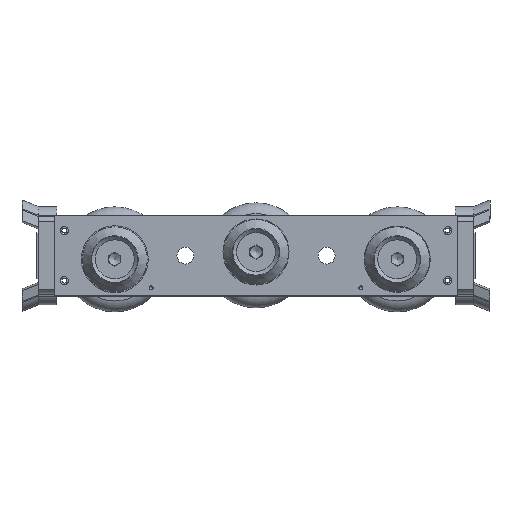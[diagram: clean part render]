
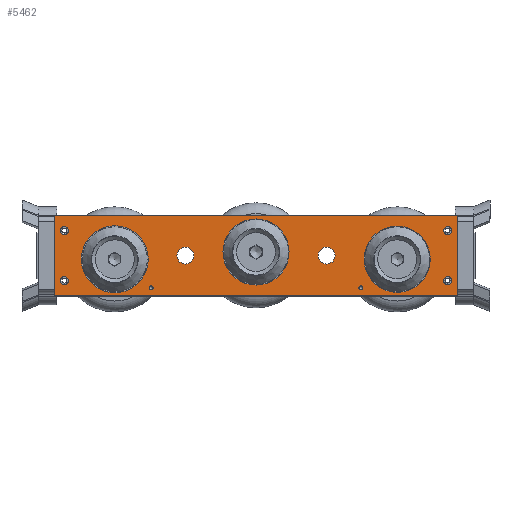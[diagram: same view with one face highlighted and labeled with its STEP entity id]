
A CAD part, top view. The second image highlights one B-rep face of the part: STEP entity #5462.
In plain terms, the highlighted planar face has unit normal (0, 0, 1).
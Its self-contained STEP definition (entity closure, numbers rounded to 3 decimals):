
#58 = CIRCLE ( 'NONE', #981, 1. ) ;
#91 = CIRCLE ( 'NONE', #696, 1. ) ;
#97 = CIRCLE ( 'NONE', #3972, 8.3 ) ;
#251 = DIRECTION ( 'NONE',  ( -1., 0., 0. ) ) ;
#273 = CARTESIAN_POINT ( 'NONE',  ( -46.5, -6.2, 3. ) ) ;
#287 = EDGE_CURVE ( 'NONE', #6233, #6233, #3957, .T. ) ;
#354 = VERTEX_POINT ( 'NONE', #3831 ) ;
#376 = EDGE_CURVE ( 'NONE', #5525, #4597, #4085, .T. ) ;
#404 = CARTESIAN_POINT ( 'NONE',  ( -47.5, -6.2, 3. ) ) ;
#449 = EDGE_CURVE ( 'NONE', #5886, #4985, #5121, .T. ) ;
#565 = AXIS2_PLACEMENT_3D ( 'NONE', #3541, #3728, #1770 ) ;
#599 = EDGE_LOOP ( 'NONE', ( #2464 ) ) ;
#696 = AXIS2_PLACEMENT_3D ( 'NONE', #2272, #830, #3811 ) ;
#728 = CARTESIAN_POINT ( 'NONE',  ( -46.5, 6.2, 3. ) ) ;
#766 = DIRECTION ( 'NONE',  ( 1., 0., 0. ) ) ;
#802 = FACE_BOUND ( 'NONE', #1816, .T. ) ;
#830 = DIRECTION ( 'NONE',  ( 0., 0., -1. ) ) ;
#855 = LINE ( 'NONE', #2807, #6227 ) ;
#935 = DIRECTION ( 'NONE',  ( 1., 0., 0. ) ) ;
#940 = EDGE_CURVE ( 'NONE', #354, #354, #994, .T. ) ;
#969 = CARTESIAN_POINT ( 'NONE',  ( 47.5, 6.2, 3. ) ) ;
#981 = AXIS2_PLACEMENT_3D ( 'NONE', #969, #2928, #4874 ) ;
#994 = CIRCLE ( 'NONE', #1512, 8.2 ) ;
#1012 = AXIS2_PLACEMENT_3D ( 'NONE', #3749, #3238, #3150 ) ;
#1032 = ORIENTED_EDGE ( 'NONE', *, *, #6018, .F. ) ;
#1058 = DIRECTION ( 'NONE',  ( 0., 0., 1. ) ) ;
#1087 = AXIS2_PLACEMENT_3D ( 'NONE', #3424, #3992, #5352 ) ;
#1130 = CARTESIAN_POINT ( 'NONE',  ( 50., -10., 3. ) ) ;
#1182 = FACE_BOUND ( 'NONE', #1412, .T. ) ;
#1215 = AXIS2_PLACEMENT_3D ( 'NONE', #404, #1338, #6298 ) ;
#1263 = DIRECTION ( 'NONE',  ( 0., 0., 1. ) ) ;
#1268 = CARTESIAN_POINT ( 'NONE',  ( 19.6, 0., 3. ) ) ;
#1271 = ORIENTED_EDGE ( 'NONE', *, *, #1650, .F. ) ;
#1274 = PLANE ( 'NONE',  #1012 ) ;
#1338 = DIRECTION ( 'NONE',  ( 0., 0., 1. ) ) ;
#1412 = EDGE_LOOP ( 'NONE', ( #3812 ) ) ;
#1453 = EDGE_CURVE ( 'NONE', #5318, #5318, #58, .T. ) ;
#1458 = LINE ( 'NONE', #2967, #1509 ) ;
#1509 = VECTOR ( 'NONE', #4377, 1000. ) ;
#1512 = AXIS2_PLACEMENT_3D ( 'NONE', #2002, #1058, #1578 ) ;
#1578 = DIRECTION ( 'NONE',  ( 1., 0., 0. ) ) ;
#1627 = CIRCLE ( 'NONE', #3268, 2.1 ) ;
#1650 = EDGE_CURVE ( 'NONE', #4842, #4842, #3539, .T. ) ;
#1675 = CARTESIAN_POINT ( 'NONE',  ( 50., -10., 3. ) ) ;
#1750 = VERTEX_POINT ( 'NONE', #1268 ) ;
#1770 = DIRECTION ( 'NONE',  ( 1., 0., 0. ) ) ;
#1787 = FACE_OUTER_BOUND ( 'NONE', #5754, .T. ) ;
#1809 = DIRECTION ( 'NONE',  ( 1., 0., 0. ) ) ;
#1816 = EDGE_LOOP ( 'NONE', ( #3762 ) ) ;
#1843 = ORIENTED_EDGE ( 'NONE', *, *, #4909, .T. ) ;
#2002 = CARTESIAN_POINT ( 'NONE',  ( 35., -0.9, 3. ) ) ;
#2189 = FACE_BOUND ( 'NONE', #5203, .T. ) ;
#2202 = CARTESIAN_POINT ( 'NONE',  ( 26., -8., 3. ) ) ;
#2244 = VERTEX_POINT ( 'NONE', #5165 ) ;
#2272 = CARTESIAN_POINT ( 'NONE',  ( 47.5, -6.2, 3. ) ) ;
#2289 = ORIENTED_EDGE ( 'NONE', *, *, #5219, .F. ) ;
#2326 = CARTESIAN_POINT ( 'NONE',  ( -25.5, -8., 3. ) ) ;
#2334 = DIRECTION ( 'NONE',  ( 0., 1., 0. ) ) ;
#2431 = DIRECTION ( 'NONE',  ( 0., 0., 1. ) ) ;
#2464 = ORIENTED_EDGE ( 'NONE', *, *, #6276, .F. ) ;
#2594 = EDGE_CURVE ( 'NONE', #4985, #5525, #1458, .T. ) ;
#2624 = EDGE_CURVE ( 'NONE', #3422, #3422, #5079, .T. ) ;
#2628 = ORIENTED_EDGE ( 'NONE', *, *, #2624, .F. ) ;
#2701 = FACE_BOUND ( 'NONE', #6321, .T. ) ;
#2707 = EDGE_LOOP ( 'NONE', ( #2804 ) ) ;
#2763 = EDGE_LOOP ( 'NONE', ( #2289 ) ) ;
#2804 = ORIENTED_EDGE ( 'NONE', *, *, #4825, .F. ) ;
#2807 = CARTESIAN_POINT ( 'NONE',  ( 50., -10., 3. ) ) ;
#2852 = AXIS2_PLACEMENT_3D ( 'NONE', #4384, #2431, #1809 ) ;
#2899 = CARTESIAN_POINT ( 'NONE',  ( 46.5, 6.2, 3. ) ) ;
#2928 = DIRECTION ( 'NONE',  ( 0., 0., -1. ) ) ;
#2931 = ORIENTED_EDGE ( 'NONE', *, *, #2594, .T. ) ;
#2967 = CARTESIAN_POINT ( 'NONE',  ( -50., -10., 3. ) ) ;
#3055 = CIRCLE ( 'NONE', #4182, 2.1 ) ;
#3150 = DIRECTION ( 'NONE',  ( 1., 0., 0. ) ) ;
#3177 = VERTEX_POINT ( 'NONE', #4689 ) ;
#3238 = DIRECTION ( 'NONE',  ( 0., 0., 1. ) ) ;
#3268 = AXIS2_PLACEMENT_3D ( 'NONE', #5644, #1263, #4680 ) ;
#3345 = DIRECTION ( 'NONE',  ( 0., 0., 1. ) ) ;
#3422 = VERTEX_POINT ( 'NONE', #5350 ) ;
#3424 = CARTESIAN_POINT ( 'NONE',  ( 0., 0.9, 3. ) ) ;
#3539 = CIRCLE ( 'NONE', #565, 0.5 ) ;
#3541 = CARTESIAN_POINT ( 'NONE',  ( -26., -8., 3. ) ) ;
#3542 = AXIS2_PLACEMENT_3D ( 'NONE', #2202, #4190, #4708 ) ;
#3718 = FACE_BOUND ( 'NONE', #4393, .T. ) ;
#3728 = DIRECTION ( 'NONE',  ( 0., 0., 1. ) ) ;
#3749 = CARTESIAN_POINT ( 'NONE',  ( 0., 0., 3. ) ) ;
#3762 = ORIENTED_EDGE ( 'NONE', *, *, #1453, .T. ) ;
#3811 = DIRECTION ( 'NONE',  ( -1., 0., 0. ) ) ;
#3812 = ORIENTED_EDGE ( 'NONE', *, *, #4635, .T. ) ;
#3831 = CARTESIAN_POINT ( 'NONE',  ( 43.2, -0.9, 3. ) ) ;
#3845 = CARTESIAN_POINT ( 'NONE',  ( -50., -10., 3. ) ) ;
#3932 = ORIENTED_EDGE ( 'NONE', *, *, #4714, .F. ) ;
#3957 = CIRCLE ( 'NONE', #3542, 0.5 ) ;
#3972 = AXIS2_PLACEMENT_3D ( 'NONE', #4832, #3345, #935 ) ;
#3992 = DIRECTION ( 'NONE',  ( 0., 0., 1. ) ) ;
#4085 = LINE ( 'NONE', #1675, #5680 ) ;
#4161 = ORIENTED_EDGE ( 'NONE', *, *, #287, .F. ) ;
#4182 = AXIS2_PLACEMENT_3D ( 'NONE', #4533, #4943, #5449 ) ;
#4190 = DIRECTION ( 'NONE',  ( 0., 0., 1. ) ) ;
#4200 = FACE_BOUND ( 'NONE', #5142, .T. ) ;
#4231 = FACE_BOUND ( 'NONE', #2763, .T. ) ;
#4375 = CARTESIAN_POINT ( 'NONE',  ( 26.5, -8., 3. ) ) ;
#4377 = DIRECTION ( 'NONE',  ( 0., -1., 0. ) ) ;
#4384 = CARTESIAN_POINT ( 'NONE',  ( -47.5, 6.2, 3. ) ) ;
#4393 = EDGE_LOOP ( 'NONE', ( #2628 ) ) ;
#4504 = CARTESIAN_POINT ( 'NONE',  ( -50., 10., 3. ) ) ;
#4533 = CARTESIAN_POINT ( 'NONE',  ( 17.5, 0., 3. ) ) ;
#4597 = VERTEX_POINT ( 'NONE', #1130 ) ;
#4600 = CARTESIAN_POINT ( 'NONE',  ( 46.5, -6.2, 3. ) ) ;
#4632 = FACE_BOUND ( 'NONE', #2707, .T. ) ;
#4633 = CARTESIAN_POINT ( 'NONE',  ( 50., 10., 3. ) ) ;
#4635 = EDGE_CURVE ( 'NONE', #6111, #6111, #91, .T. ) ;
#4652 = VERTEX_POINT ( 'NONE', #273 ) ;
#4680 = DIRECTION ( 'NONE',  ( 1., 0., 0. ) ) ;
#4689 = CARTESIAN_POINT ( 'NONE',  ( -15.4, 0., 3. ) ) ;
#4708 = DIRECTION ( 'NONE',  ( 1., 0., 0. ) ) ;
#4714 = EDGE_CURVE ( 'NONE', #4652, #4652, #4987, .T. ) ;
#4825 = EDGE_CURVE ( 'NONE', #5081, #5081, #5184, .T. ) ;
#4832 = CARTESIAN_POINT ( 'NONE',  ( -35., -0.9, 3. ) ) ;
#4842 = VERTEX_POINT ( 'NONE', #2326 ) ;
#4874 = DIRECTION ( 'NONE',  ( -1., 0., 0. ) ) ;
#4909 = EDGE_CURVE ( 'NONE', #4597, #5886, #855, .T. ) ;
#4943 = DIRECTION ( 'NONE',  ( 0., 0., 1. ) ) ;
#4965 = VECTOR ( 'NONE', #251, 1000. ) ;
#4979 = ORIENTED_EDGE ( 'NONE', *, *, #376, .T. ) ;
#4985 = VERTEX_POINT ( 'NONE', #4504 ) ;
#4987 = CIRCLE ( 'NONE', #1215, 1. ) ;
#5079 = CIRCLE ( 'NONE', #1087, 8.2 ) ;
#5081 = VERTEX_POINT ( 'NONE', #728 ) ;
#5091 = FACE_BOUND ( 'NONE', #599, .T. ) ;
#5119 = FACE_BOUND ( 'NONE', #6204, .T. ) ;
#5121 = LINE ( 'NONE', #4633, #4965 ) ;
#5142 = EDGE_LOOP ( 'NONE', ( #1271 ) ) ;
#5165 = CARTESIAN_POINT ( 'NONE',  ( -26.7, -0.9, 3. ) ) ;
#5184 = CIRCLE ( 'NONE', #2852, 1. ) ;
#5203 = EDGE_LOOP ( 'NONE', ( #4161 ) ) ;
#5219 = EDGE_CURVE ( 'NONE', #2244, #2244, #97, .T. ) ;
#5318 = VERTEX_POINT ( 'NONE', #2899 ) ;
#5350 = CARTESIAN_POINT ( 'NONE',  ( 8.2, 0.9, 3. ) ) ;
#5352 = DIRECTION ( 'NONE',  ( 1., 0., 0. ) ) ;
#5359 = CARTESIAN_POINT ( 'NONE',  ( 50., 10., 3. ) ) ;
#5449 = DIRECTION ( 'NONE',  ( 1., 0., 0. ) ) ;
#5462 = ADVANCED_FACE ( 'NONE', ( #802, #1182, #4632, #5119, #4200, #2189, #2701, #4231, #3718, #5091, #5657, #1787 ), #1274, .T. ) ;
#5491 = EDGE_LOOP ( 'NONE', ( #1032 ) ) ;
#5525 = VERTEX_POINT ( 'NONE', #3845 ) ;
#5644 = CARTESIAN_POINT ( 'NONE',  ( -17.5, 0., 3. ) ) ;
#5657 = FACE_BOUND ( 'NONE', #5491, .T. ) ;
#5680 = VECTOR ( 'NONE', #766, 1000. ) ;
#5696 = ORIENTED_EDGE ( 'NONE', *, *, #449, .T. ) ;
#5754 = EDGE_LOOP ( 'NONE', ( #2931, #4979, #1843, #5696 ) ) ;
#5886 = VERTEX_POINT ( 'NONE', #5359 ) ;
#5917 = ORIENTED_EDGE ( 'NONE', *, *, #940, .F. ) ;
#6018 = EDGE_CURVE ( 'NONE', #1750, #1750, #3055, .T. ) ;
#6111 = VERTEX_POINT ( 'NONE', #4600 ) ;
#6204 = EDGE_LOOP ( 'NONE', ( #3932 ) ) ;
#6227 = VECTOR ( 'NONE', #2334, 1000. ) ;
#6233 = VERTEX_POINT ( 'NONE', #4375 ) ;
#6276 = EDGE_CURVE ( 'NONE', #3177, #3177, #1627, .T. ) ;
#6298 = DIRECTION ( 'NONE',  ( 1., 0., 0. ) ) ;
#6321 = EDGE_LOOP ( 'NONE', ( #5917 ) ) ;
